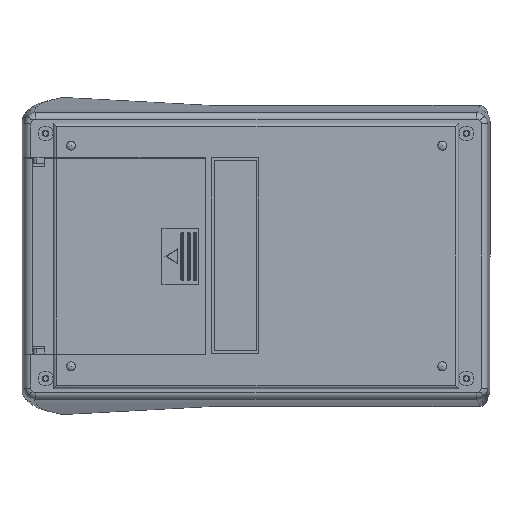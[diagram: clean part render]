
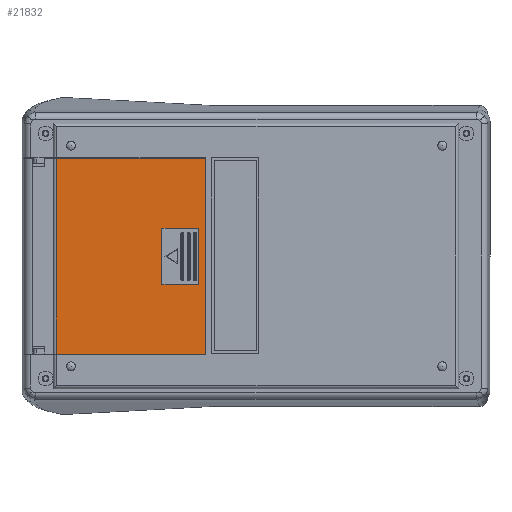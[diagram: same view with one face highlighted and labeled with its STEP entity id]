
A CAD part, front view. The second image highlights one B-rep face of the part: STEP entity #21832.
In plain terms, the highlighted planar face has unit normal (0, -1, 0).
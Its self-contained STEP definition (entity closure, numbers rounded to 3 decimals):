
#210 = EDGE_CURVE ( 'NONE', #18738, #14894, #12262, .T. ) ;
#220 = CARTESIAN_POINT ( 'NONE',  ( 38.7, 0., 8.75 ) ) ;
#647 = EDGE_CURVE ( 'NONE', #18048, #16429, #15992, .T. ) ;
#1284 = CARTESIAN_POINT ( 'NONE',  ( 38.7, 0., -8.75 ) ) ;
#2599 = VECTOR ( 'NONE', #9225, 1000. ) ;
#2754 = DIRECTION ( 'NONE',  ( 1., 0., 0. ) ) ;
#2758 = EDGE_CURVE ( 'NONE', #17955, #5930, #20657, .T. ) ;
#3253 = VECTOR ( 'NONE', #14879, 1000. ) ;
#3652 = DIRECTION ( 'NONE',  ( 1., 0., 0. ) ) ;
#3888 = ORIENTED_EDGE ( 'NONE', *, *, #7997, .F. ) ;
#4397 = EDGE_CURVE ( 'NONE', #18048, #17955, #10544, .T. ) ;
#5317 = ORIENTED_EDGE ( 'NONE', *, *, #647, .F. ) ;
#5699 = CARTESIAN_POINT ( 'NONE',  ( 25.2, 0., -30.4 ) ) ;
#5900 = CARTESIAN_POINT ( 'NONE',  ( 27.2, 0., -8.75 ) ) ;
#5930 = VERTEX_POINT ( 'NONE', #6339 ) ;
#5949 = CARTESIAN_POINT ( 'NONE',  ( 27.2, 0., 8.75 ) ) ;
#6339 = CARTESIAN_POINT ( 'NONE',  ( 71.5, 0., -30.4 ) ) ;
#6759 = CARTESIAN_POINT ( 'NONE',  ( 27.2, 0., 8.75 ) ) ;
#7965 = VECTOR ( 'NONE', #14860, 1000. ) ;
#7983 = ORIENTED_EDGE ( 'NONE', *, *, #11553, .F. ) ;
#7997 = EDGE_CURVE ( 'NONE', #14894, #13119, #17247, .T. ) ;
#8152 = CARTESIAN_POINT ( 'NONE',  ( 71.5, 0., 30.4 ) ) ;
#8420 = CARTESIAN_POINT ( 'NONE',  ( 25.2, 0., 30.4 ) ) ;
#9225 = DIRECTION ( 'NONE',  ( 0., 0., -1. ) ) ;
#9533 = CARTESIAN_POINT ( 'NONE',  ( 71.5, 0., 30.4 ) ) ;
#9675 = ORIENTED_EDGE ( 'NONE', *, *, #15453, .F. ) ;
#10116 = DIRECTION ( 'NONE',  ( 0., 1., 0. ) ) ;
#10383 = DIRECTION ( 'NONE',  ( 0., 0., 1. ) ) ;
#10544 = LINE ( 'NONE', #17589, #2599 ) ;
#10925 = AXIS2_PLACEMENT_3D ( 'NONE', #8420, #10116, #21949 ) ;
#11553 = EDGE_CURVE ( 'NONE', #16429, #5930, #12471, .T. ) ;
#12119 = CARTESIAN_POINT ( 'NONE',  ( 25.2, 0., 30.4 ) ) ;
#12262 = LINE ( 'NONE', #12901, #16233 ) ;
#12471 = LINE ( 'NONE', #8152, #7965 ) ;
#12595 = EDGE_LOOP ( 'NONE', ( #9675, #3888, #18459, #17155 ) ) ;
#12751 = DIRECTION ( 'NONE',  ( 1., 0., 0. ) ) ;
#12901 = CARTESIAN_POINT ( 'NONE',  ( 38.7, 0., -8.75 ) ) ;
#13119 = VERTEX_POINT ( 'NONE', #220 ) ;
#13202 = CARTESIAN_POINT ( 'NONE',  ( 38.7, 0., 8.75 ) ) ;
#13290 = FACE_OUTER_BOUND ( 'NONE', #19468, .T. ) ;
#14364 = FACE_BOUND ( 'NONE', #12595, .T. ) ;
#14860 = DIRECTION ( 'NONE',  ( 0., 0., -1. ) ) ;
#14879 = DIRECTION ( 'NONE',  ( -1., 0., 0. ) ) ;
#14894 = VERTEX_POINT ( 'NONE', #1284 ) ;
#15090 = DIRECTION ( 'NONE',  ( 0., 0., -1. ) ) ;
#15451 = ORIENTED_EDGE ( 'NONE', *, *, #2758, .T. ) ;
#15453 = EDGE_CURVE ( 'NONE', #13119, #17440, #16771, .T. ) ;
#15992 = LINE ( 'NONE', #12119, #19950 ) ;
#16152 = CARTESIAN_POINT ( 'NONE',  ( 25.2, 0., -30.4 ) ) ;
#16233 = VECTOR ( 'NONE', #2754, 1000. ) ;
#16429 = VERTEX_POINT ( 'NONE', #9533 ) ;
#16708 = VECTOR ( 'NONE', #10383, 1000. ) ;
#16771 = LINE ( 'NONE', #13202, #3253 ) ;
#17155 = ORIENTED_EDGE ( 'NONE', *, *, #20429, .F. ) ;
#17247 = LINE ( 'NONE', #20504, #16708 ) ;
#17340 = LINE ( 'NONE', #6759, #17874 ) ;
#17440 = VERTEX_POINT ( 'NONE', #5949 ) ;
#17589 = CARTESIAN_POINT ( 'NONE',  ( 25.2, 0., 30.4 ) ) ;
#17874 = VECTOR ( 'NONE', #15090, 1000. ) ;
#17955 = VERTEX_POINT ( 'NONE', #5699 ) ;
#18048 = VERTEX_POINT ( 'NONE', #21301 ) ;
#18459 = ORIENTED_EDGE ( 'NONE', *, *, #210, .F. ) ;
#18738 = VERTEX_POINT ( 'NONE', #5900 ) ;
#19468 = EDGE_LOOP ( 'NONE', ( #15451, #7983, #5317, #21543 ) ) ;
#19950 = VECTOR ( 'NONE', #3652, 1000. ) ;
#20234 = PLANE ( 'NONE',  #10925 ) ;
#20429 = EDGE_CURVE ( 'NONE', #17440, #18738, #17340, .T. ) ;
#20504 = CARTESIAN_POINT ( 'NONE',  ( 38.7, 0., 8.75 ) ) ;
#20657 = LINE ( 'NONE', #16152, #21717 ) ;
#21301 = CARTESIAN_POINT ( 'NONE',  ( 25.2, 0., 30.4 ) ) ;
#21543 = ORIENTED_EDGE ( 'NONE', *, *, #4397, .T. ) ;
#21717 = VECTOR ( 'NONE', #12751, 1000. ) ;
#21832 = ADVANCED_FACE ( 'NONE', ( #14364, #13290 ), #20234, .F. ) ;
#21949 = DIRECTION ( 'NONE',  ( 0., 0., 1. ) ) ;
